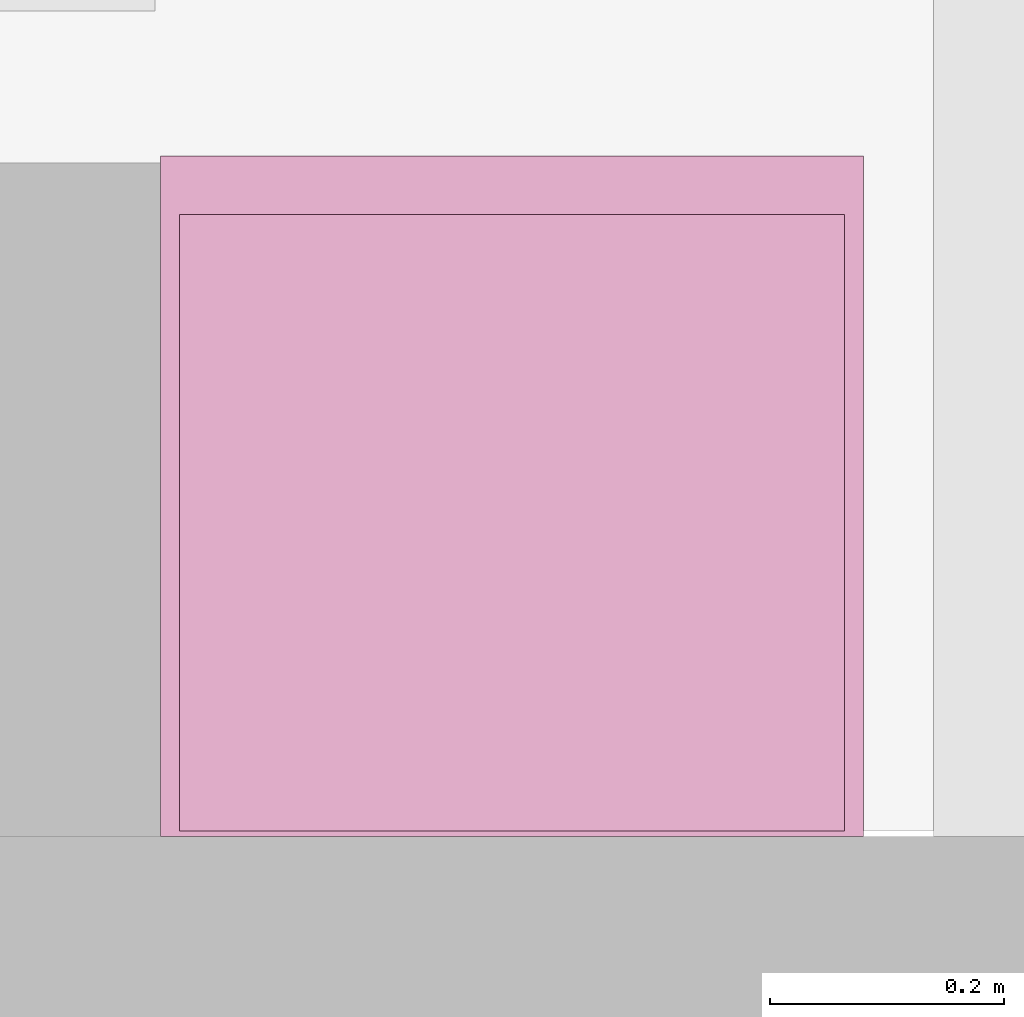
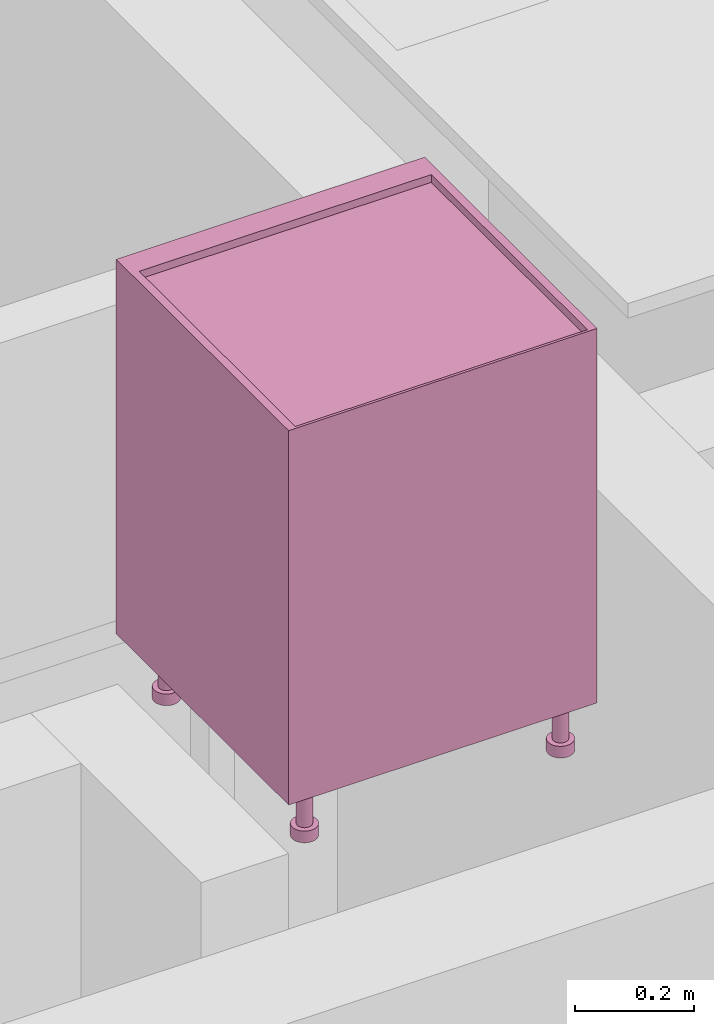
# One storey, part 22 of 68: 1 furnishing.
"""IFC2X3 building model written with IfcOpenShell, lengths in millimetres."""

from ifc_helpers import new_model, entity, si_unit, converted_unit, direction, frame, origin, place, context, subcontext, project, spatial, faceted_brep, source, transform, mapped, material, type_object, type_shapes, element, save


model = new_model("IFC2X3")

# Units and contexts
model_context = context("Model", 3, precision=0.01, world=origin(), true_north=direction((6.123233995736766e-17, 1.0)))
plan_context = context("Plan", 3, precision=0.01, world=origin(), true_north=direction((6.123233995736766e-17, 1.0)))
body_context = subcontext(model_context, "Body", "Model", "MODEL_VIEW")
ifc_project = project(units=[si_unit("LENGTHUNIT", "METRE", prefix="MILLI"), converted_unit("PLANEANGLEUNIT", "DEGREE", entity("IfcPlaneAngleMeasure", 0.017453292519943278), si_unit("PLANEANGLEUNIT", "RADIAN"), dimensions=[0, 0, 0, 0, 0, 0, 0]), si_unit("AREAUNIT", "SQUARE_METRE")], contexts=[model_context, plan_context])

# Site, building, storey, space
site_placement = place(None, origin())
site = spatial("IfcSite", under=ifc_project, at=site_placement, Name="Default", CompositionType="ELEMENT")
building_placement = place(site_placement, origin())
building = spatial("IfcBuilding", under=site, at=building_placement, CompositionType="ELEMENT")
storey_placement = place(building_placement, frame((0.0, 0.0, 6295.0)))
storey = spatial("IfcBuildingStorey", under=building, at=storey_placement, Name="3K", CompositionType="ELEMENT", Elevation=6294.999999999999)
space_placement = place(storey_placement, origin())
space = spatial("IfcSpace", under=storey, at=space_placement, Name="3-5.1", CompositionType="ELEMENT", InteriorOrExteriorSpace="INTERNAL")

# Furnishing
ifc_material = material(Name="<Unnamed>")
furniture_type = type_object("IfcFurnitureType", Name="HR_Casework_Kitchen_Generic_Appliance_v3:Dishwasher", AssemblyPlace="NOTDEFINED", material=ifc_material)
shared_shape = source(origin(), body_context, "Body", "Brep", [
    faceted_brep([(305.7003264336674, -585.7846096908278, -3101.0), (310.6708891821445, -581.9705627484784, -3101.0), (300.70032643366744, -577.1243556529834, -3101.0), (297.32379306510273, -578.5229615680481, -3101.0), (299.91198351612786, -588.1822198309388, -3101.0), (303.59982137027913, -574.8994949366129, -3101.0), (314.4849361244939, -577.0, -3101.0), (305.82468208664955, -572.0, -3101.0), (307.2232880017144, -568.6234666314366, -3101.0), (316.8825462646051, -571.2116570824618, -3101.0), (307.70032643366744, -565.0, -3101.0), (317.7003264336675, -565.0, -3101.0), (307.2232880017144, -561.3765333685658, -3101.0), (316.88254626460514, -558.7883429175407, -3101.0), (305.82468208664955, -558.0, -3101.0), (314.484936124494, -553.0, -3101.0), (303.59982137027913, -555.1005050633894, -3101.0), (310.67088918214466, -548.0294372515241, -3101.0), (300.70032643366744, -552.875644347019, -3101.0), (305.7003264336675, -544.2153903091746, -3101.0), (297.32379306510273, -551.4770384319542, -3101.0), (299.91198351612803, -541.8177801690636, -3101.0), (293.7003264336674, -551.0, -3101.0), (293.70032643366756, -541.0, -3101.0), (290.07685980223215, -551.4770384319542, -3101.0), (287.488669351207, -541.8177801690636, -3101.0), (286.70032643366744, -552.875644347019, -3101.0), (281.7003264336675, -544.2153903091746, -3101.0), (283.80083149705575, -555.1005050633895, -3101.0), (276.7297636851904, -548.029437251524, -3101.0), (281.5759707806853, -558.0, -3101.0), (272.91571674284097, -553.0, -3101.0), (270.51810660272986, -558.7883429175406, -3101.0), (280.1773648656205, -561.3765333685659, -3101.0), (269.7003264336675, -565.0, -3101.0), (279.7003264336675, -565.0, -3101.0), (270.51810660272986, -571.2116570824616, -3101.0), (280.1773648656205, -568.6234666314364, -3101.0), (272.9157167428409, -577.0, -3101.0), (281.57597078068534, -572.0, -3101.0), (276.7297636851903, -581.9705627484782, -3101.0), (283.80083149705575, -574.8994949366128, -3101.0), (281.70032643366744, -585.7846096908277, -3101.0), (286.70032643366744, -577.1243556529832, -3101.0), (287.4886693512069, -588.1822198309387, -3101.0), (290.07685980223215, -578.5229615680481, -3101.0), (293.7003264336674, -589.0, -3101.0), (293.70032643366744, -579.0, -3101.0), (299.91198351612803, -541.8177801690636, -3125.0), (305.7003264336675, -544.2153903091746, -3125.0), (310.67088918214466, -548.0294372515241, -3125.0), (314.484936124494, -553.0, -3125.0), (316.88254626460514, -558.7883429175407, -3125.0), (317.7003264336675, -565.0, -3125.0), (316.8825462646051, -571.2116570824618, -3125.0), (314.4849361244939, -577.0, -3125.0), (310.6708891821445, -581.9705627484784, -3125.0), (305.7003264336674, -585.7846096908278, -3125.0), (299.91198351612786, -588.1822198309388, -3125.0), (293.7003264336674, -589.0, -3125.0), (287.4886693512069, -588.1822198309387, -3125.0), (281.70032643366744, -585.7846096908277, -3125.0), (276.7297636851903, -581.9705627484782, -3125.0), (272.9157167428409, -577.0, -3125.0), (270.51810660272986, -571.2116570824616, -3125.0), (269.7003264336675, -565.0, -3125.0), (270.51810660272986, -558.7883429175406, -3125.0), (272.91571674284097, -553.0, -3125.0), (276.7297636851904, -548.029437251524, -3125.0), (281.7003264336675, -544.2153903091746, -3125.0), (287.488669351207, -541.8177801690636, -3125.0), (293.70032643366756, -541.0, -3125.0), (297.32379306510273, -578.5229615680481, -3025.0), (300.70032643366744, -577.1243556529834, -3025.0), (303.59982137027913, -574.8994949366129, -3025.0), (305.8246820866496, -572.0, -3025.0), (307.2232880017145, -568.6234666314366, -3025.0), (307.70032643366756, -565.0, -3025.0), (307.2232880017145, -561.3765333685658, -3025.0), (305.8246820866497, -558.0, -3025.0), (303.5998213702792, -555.1005050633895, -3025.0), (300.70032643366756, -552.875644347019, -3025.0), (297.32379306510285, -551.4770384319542, -3025.0), (293.70032643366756, -551.0, -3025.0), (290.07685980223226, -551.4770384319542, -3025.0), (286.70032643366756, -552.875644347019, -3025.0), (283.80083149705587, -555.1005050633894, -3025.0), (281.5759707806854, -558.0, -3025.0), (280.1773648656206, -561.3765333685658, -3025.0), (279.70032643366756, -565.0, -3025.0), (280.1773648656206, -568.6234666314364, -3025.0), (281.5759707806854, -572.0, -3025.0), (283.8008314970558, -574.8994949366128, -3025.0), (286.7003264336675, -577.1243556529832, -3025.0), (290.07685980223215, -578.5229615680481, -3025.0), (293.70032643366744, -579.0, -3025.0)], [[[0, 1, 2]], [[0, 2, 3]], [[3, 4, 0]], [[2, 1, 5]], [[6, 5, 1]], [[7, 5, 6]], [[8, 7, 6]], [[8, 6, 9]], [[8, 9, 10]], [[10, 9, 11]], [[12, 10, 11]], [[12, 11, 13]], [[14, 12, 13]], [[14, 13, 15]], [[16, 14, 15]], [[15, 17, 16]], [[17, 18, 16]], [[18, 17, 19]], [[18, 19, 20]], [[21, 20, 19]], [[20, 21, 22]], [[22, 21, 23]], [[23, 24, 22]], [[24, 23, 25]], [[24, 25, 26]], [[27, 26, 25]], [[27, 28, 26]], [[27, 29, 28]], [[30, 28, 29]], [[31, 30, 29]], [[32, 30, 31]], [[33, 30, 32]], [[33, 32, 34]], [[34, 35, 33]], [[36, 35, 34]], [[36, 37, 35]], [[37, 36, 38]], [[39, 37, 38]], [[39, 38, 40]], [[39, 40, 41]], [[40, 42, 41]], [[41, 42, 43]], [[43, 42, 44]], [[44, 45, 43]], [[46, 45, 44]], [[4, 47, 46]], [[45, 46, 47]], [[4, 3, 47]], [[48, 49, 50, 51, 52, 53, 54, 55, 56, 57, 58, 59, 60, 61, 62, 63, 64, 65, 66, 67, 68, 69, 70, 71]], [[64, 36, 34, 65]], [[63, 38, 36, 64]], [[42, 40, 62, 61]], [[63, 62, 40, 38]], [[44, 42, 61, 60]], [[46, 44, 60, 59]], [[58, 4, 46, 59]], [[57, 0, 4, 58]], [[54, 53, 11, 9]], [[1, 0, 57, 56]], [[6, 55, 54, 9]], [[6, 1, 56, 55]], [[52, 13, 11, 53]], [[51, 15, 13, 52]], [[19, 17, 50, 49]], [[51, 50, 17, 15]], [[21, 19, 49, 48]], [[23, 21, 48, 71]], [[27, 69, 68, 29]], [[31, 67, 66, 32]], [[68, 67, 31, 29]], [[32, 66, 65, 34]], [[25, 70, 69, 27]], [[70, 25, 23, 71]], [[72, 73, 74, 75, 76, 77, 78, 79, 80, 81, 82, 83, 84, 85, 86, 87, 88, 89, 90, 91, 92, 93, 94, 95]], [[37, 39, 91, 90]], [[35, 37, 90, 89]], [[43, 45, 94, 93]], [[41, 43, 93, 92]], [[39, 41, 92, 91]], [[47, 95, 94, 45]], [[2, 5, 74, 73]], [[3, 2, 73, 72]], [[8, 10, 77, 76]], [[7, 8, 76, 75]], [[5, 7, 75, 74]], [[3, 72, 95, 47]], [[79, 78, 12, 14]], [[78, 77, 10, 12]], [[80, 16, 18, 81]], [[16, 80, 79, 14]], [[81, 18, 20, 82]], [[22, 83, 82, 20]], [[26, 28, 86, 85]], [[24, 26, 85, 84]], [[33, 35, 89, 88]], [[30, 33, 88, 87]], [[28, 30, 87, 86]], [[24, 84, 83, 22]]]),
    faceted_brep([(-192.29967356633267, -585.7846096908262, -3101.0), (-187.3291108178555, -581.9705627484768, -3101.0), (-197.29967356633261, -577.1243556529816, -3101.0), (-200.67620693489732, -578.5229615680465, -3101.0), (-198.08801648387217, -588.1822198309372, -3101.0), (-194.40017862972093, -574.8994949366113, -3101.0), (-183.51506387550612, -577.0, -3101.0), (-192.17531791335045, -572.0, -3101.0), (-190.77671199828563, -568.6234666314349, -3101.0), (-181.11745373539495, -571.2116570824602, -3101.0), (-190.29967356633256, -565.0, -3101.0), (-180.29967356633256, -565.0, -3101.0), (-190.77671199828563, -561.3765333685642, -3101.0), (-181.11745373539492, -558.788342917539, -3101.0), (-192.17531791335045, -558.0, -3101.0), (-183.515063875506, -553.0, -3101.0), (-194.40017862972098, -555.1005050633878, -3101.0), (-187.3291108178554, -548.0294372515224, -3101.0), (-197.29967356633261, -552.8756443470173, -3101.0), (-192.29967356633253, -544.215390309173, -3101.0), (-200.67620693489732, -551.4770384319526, -3101.0), (-198.08801648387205, -541.8177801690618, -3101.0), (-204.29967356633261, -551.0, -3101.0), (-204.29967356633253, -541.0, -3101.0), (-207.92314019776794, -551.4770384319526, -3101.0), (-210.51133064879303, -541.8177801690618, -3101.0), (-211.29967356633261, -552.8756443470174, -3101.0), (-216.29967356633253, -544.215390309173, -3101.0), (-214.19916850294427, -555.1005050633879, -3101.0), (-221.27023631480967, -548.0294372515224, -3101.0), (-216.42402921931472, -558.0, -3101.0), (-225.08428325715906, -553.0, -3101.0), (-227.48189339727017, -558.788342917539, -3101.0), (-217.8226351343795, -561.3765333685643, -3101.0), (-228.2996735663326, -565.0, -3101.0), (-218.29967356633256, -565.0, -3101.0), (-227.48189339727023, -571.21165708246, -3101.0), (-217.8226351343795, -568.6234666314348, -3101.0), (-225.08428325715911, -577.0, -3101.0), (-216.42402921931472, -572.0, -3101.0), (-221.27023631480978, -581.9705627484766, -3101.0), (-214.19916850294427, -574.8994949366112, -3101.0), (-216.29967356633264, -585.784609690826, -3101.0), (-211.29967356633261, -577.1243556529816, -3101.0), (-210.51133064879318, -588.1822198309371, -3101.0), (-207.9231401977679, -578.5229615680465, -3101.0), (-204.2996735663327, -589.0, -3101.0), (-204.29967356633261, -579.0, -3101.0), (-198.08801648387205, -541.8177801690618, -3125.0), (-192.29967356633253, -544.215390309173, -3125.0), (-187.3291108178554, -548.0294372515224, -3125.0), (-183.515063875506, -553.0, -3125.0), (-181.11745373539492, -558.788342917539, -3125.0), (-180.29967356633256, -565.0, -3125.0), (-181.11745373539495, -571.2116570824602, -3125.0), (-183.51506387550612, -577.0, -3125.0), (-187.3291108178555, -581.9705627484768, -3125.0), (-192.29967356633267, -585.7846096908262, -3125.0), (-198.08801648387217, -588.1822198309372, -3125.0), (-204.2996735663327, -589.0, -3125.0), (-210.51133064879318, -588.1822198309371, -3125.0), (-216.29967356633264, -585.784609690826, -3125.0), (-221.27023631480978, -581.9705627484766, -3125.0), (-225.08428325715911, -577.0, -3125.0), (-227.48189339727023, -571.21165708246, -3125.0), (-228.2996735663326, -565.0, -3125.0), (-227.48189339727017, -558.788342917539, -3125.0), (-225.08428325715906, -553.0, -3125.0), (-221.27023631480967, -548.0294372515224, -3125.0), (-216.29967356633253, -544.215390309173, -3125.0), (-210.51133064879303, -541.8177801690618, -3125.0), (-204.29967356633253, -541.0, -3125.0), (-200.67620693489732, -578.5229615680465, -3025.0), (-197.29967356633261, -577.1243556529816, -3025.0), (-194.40017862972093, -574.8994949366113, -3025.0), (-192.17531791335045, -572.0, -3025.0), (-190.77671199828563, -568.6234666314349, -3025.0), (-190.29967356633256, -565.0, -3025.0), (-190.77671199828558, -561.3765333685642, -3025.0), (-192.1753179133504, -558.0, -3025.0), (-194.40017862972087, -555.1005050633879, -3025.0), (-197.29967356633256, -552.8756443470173, -3025.0), (-200.67620693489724, -551.4770384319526, -3025.0), (-204.29967356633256, -551.0, -3025.0), (-207.92314019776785, -551.4770384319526, -3025.0), (-211.29967356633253, -552.8756443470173, -3025.0), (-214.1991685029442, -555.1005050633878, -3025.0), (-216.4240292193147, -558.0, -3025.0), (-217.8226351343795, -561.3765333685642, -3025.0), (-218.29967356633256, -565.0, -3025.0), (-217.8226351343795, -568.6234666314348, -3025.0), (-216.42402921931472, -572.0, -3025.0), (-214.19916850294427, -574.8994949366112, -3025.0), (-211.2996735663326, -577.1243556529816, -3025.0), (-207.9231401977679, -578.5229615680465, -3025.0), (-204.29967356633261, -579.0, -3025.0)], [[[0, 1, 2]], [[0, 2, 3]], [[3, 4, 0]], [[2, 1, 5]], [[6, 5, 1]], [[7, 5, 6]], [[8, 7, 6]], [[8, 6, 9]], [[8, 9, 10]], [[10, 9, 11]], [[12, 10, 11]], [[12, 11, 13]], [[14, 12, 13]], [[14, 13, 15]], [[16, 14, 15]], [[15, 17, 16]], [[17, 18, 16]], [[18, 17, 19]], [[18, 19, 20]], [[21, 20, 19]], [[20, 21, 22]], [[22, 21, 23]], [[23, 24, 22]], [[24, 23, 25]], [[24, 25, 26]], [[27, 26, 25]], [[27, 28, 26]], [[27, 29, 28]], [[30, 28, 29]], [[31, 30, 29]], [[32, 30, 31]], [[33, 30, 32]], [[33, 32, 34]], [[34, 35, 33]], [[36, 35, 34]], [[36, 37, 35]], [[37, 36, 38]], [[39, 37, 38]], [[39, 38, 40]], [[39, 40, 41]], [[40, 42, 41]], [[41, 42, 43]], [[43, 42, 44]], [[44, 45, 43]], [[46, 45, 44]], [[4, 47, 46]], [[45, 46, 47]], [[4, 3, 47]], [[48, 49, 50, 51, 52, 53, 54, 55, 56, 57, 58, 59, 60, 61, 62, 63, 64, 65, 66, 67, 68, 69, 70, 71]], [[64, 36, 34, 65]], [[63, 38, 36, 64]], [[42, 40, 62, 61]], [[63, 62, 40, 38]], [[44, 42, 61, 60]], [[46, 44, 60, 59]], [[58, 4, 46, 59]], [[57, 0, 4, 58]], [[54, 53, 11, 9]], [[1, 0, 57, 56]], [[6, 55, 54, 9]], [[6, 1, 56, 55]], [[52, 13, 11, 53]], [[51, 15, 13, 52]], [[19, 17, 50, 49]], [[51, 50, 17, 15]], [[21, 19, 49, 48]], [[23, 21, 48, 71]], [[27, 69, 68, 29]], [[31, 67, 66, 32]], [[68, 67, 31, 29]], [[32, 66, 65, 34]], [[25, 70, 69, 27]], [[70, 25, 23, 71]], [[72, 73, 74, 75, 76, 77, 78, 79, 80, 81, 82, 83, 84, 85, 86, 87, 88, 89, 90, 91, 92, 93, 94, 95]], [[37, 39, 91, 90]], [[35, 37, 90, 89]], [[43, 45, 94, 93]], [[41, 43, 93, 92]], [[39, 41, 92, 91]], [[47, 95, 94, 45]], [[2, 5, 74, 73]], [[3, 2, 73, 72]], [[8, 10, 77, 76]], [[7, 8, 76, 75]], [[5, 7, 75, 74]], [[3, 72, 95, 47]], [[79, 78, 12, 14]], [[78, 77, 10, 12]], [[80, 16, 18, 81]], [[16, 80, 79, 14]], [[81, 18, 20, 82]], [[22, 83, 82, 20]], [[26, 28, 86, 85]], [[24, 26, 85, 84]], [[33, 35, 89, 88]], [[30, 33, 88, 87]], [[28, 30, 87, 86]], [[24, 84, 83, 22]]]),
    faceted_brep([(305.70032643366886, -120.78460969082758, -3101.0), (310.670889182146, -116.97056274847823, -3101.0), (300.7003264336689, -112.12435565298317, -3101.0), (297.3237930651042, -113.52296156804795, -3101.0), (299.91198351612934, -123.18221983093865, -3101.0), (303.5998213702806, -109.8994949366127, -3101.0), (314.48493612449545, -112.0, -3101.0), (305.824682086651, -107.0, -3101.0), (307.2232880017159, -103.62346663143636, -3101.0), (316.88254626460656, -106.21165708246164, -3101.0), (307.700326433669, -100.0, -3101.0), (317.700326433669, -100.0, -3101.0), (307.2232880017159, -96.3765333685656, -3101.0), (316.8825462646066, -93.78834291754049, -3101.0), (305.824682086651, -93.0, -3101.0), (314.4849361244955, -88.0, -3101.0), (303.5998213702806, -90.10050506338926, -3101.0), (310.67088918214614, -83.02943725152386, -3101.0), (300.7003264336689, -87.8756443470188, -3101.0), (305.700326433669, -79.21539030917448, -3101.0), (297.3237930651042, -86.477038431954, -3101.0), (299.9119835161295, -76.81778016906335, -3101.0), (293.70032643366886, -86.0, -3101.0), (293.70032643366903, -76.0, -3101.0), (290.0768598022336, -86.47703843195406, -3101.0), (287.4886693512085, -76.81778016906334, -3101.0), (286.7003264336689, -87.87564434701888, -3101.0), (281.700326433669, -79.21539030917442, -3101.0), (283.8008314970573, -90.10050506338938, -3101.0), (276.72976368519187, -83.0294372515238, -3101.0), (281.5759707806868, -93.0, -3101.0), (272.91571674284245, -88.0, -3101.0), (270.51810660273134, -93.78834291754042, -3101.0), (280.177364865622, -96.37653336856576, -3101.0), (269.700326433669, -100.0, -3101.0), (279.700326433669, -100.0, -3101.0), (270.51810660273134, -106.2116570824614, -3101.0), (280.177364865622, -103.62346663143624, -3101.0), (272.9157167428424, -112.0, -3101.0), (281.5759707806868, -107.0, -3101.0), (276.72976368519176, -116.97056274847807, -3101.0), (283.8008314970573, -109.89949493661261, -3101.0), (281.7003264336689, -120.78460969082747, -3101.0), (286.7003264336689, -112.1243556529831, -3101.0), (287.4886693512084, -123.1822198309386, -3101.0), (290.0768598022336, -113.52296156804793, -3101.0), (293.70032643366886, -124.0, -3101.0), (293.7003264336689, -114.0, -3101.0), (299.9119835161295, -76.81778016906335, -3125.0), (305.700326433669, -79.21539030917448, -3125.0), (310.67088918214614, -83.02943725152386, -3125.0), (314.4849361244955, -88.0, -3125.0), (316.8825462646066, -93.78834291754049, -3125.0), (317.700326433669, -100.0, -3125.0), (316.88254626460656, -106.21165708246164, -3125.0), (314.48493612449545, -112.0, -3125.0), (310.670889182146, -116.97056274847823, -3125.0), (305.70032643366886, -120.78460969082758, -3125.0), (299.91198351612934, -123.18221983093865, -3125.0), (293.70032643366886, -124.0, -3125.0), (287.4886693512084, -123.1822198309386, -3125.0), (281.7003264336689, -120.78460969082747, -3125.0), (276.72976368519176, -116.97056274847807, -3125.0), (272.9157167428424, -112.0, -3125.0), (270.51810660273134, -106.2116570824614, -3125.0), (269.700326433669, -100.0, -3125.0), (270.51810660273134, -93.78834291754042, -3125.0), (272.91571674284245, -88.0, -3125.0), (276.72976368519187, -83.0294372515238, -3125.0), (281.700326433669, -79.21539030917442, -3125.0), (287.4886693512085, -76.81778016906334, -3125.0), (293.70032643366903, -76.0, -3125.0), (297.32379306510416, -113.52296156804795, -3025.0), (300.70032643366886, -112.12435565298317, -3025.0), (303.59982137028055, -109.8994949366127, -3025.0), (305.824682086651, -107.0, -3025.0), (307.22328800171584, -103.62346663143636, -3025.0), (307.700326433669, -100.0, -3025.0), (307.2232880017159, -96.3765333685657, -3025.0), (305.82468208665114, -93.0, -3025.0), (303.5998213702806, -90.10050506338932, -3025.0), (300.700326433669, -87.87564434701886, -3025.0), (297.32379306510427, -86.47703843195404, -3025.0), (293.700326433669, -86.0, -3025.0), (290.0768598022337, -86.47703843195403, -3025.0), (286.700326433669, -87.87564434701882, -3025.0), (283.8008314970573, -90.1005050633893, -3025.0), (281.5759707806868, -93.0, -3025.0), (280.177364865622, -96.37653336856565, -3025.0), (279.700326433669, -100.0, -3025.0), (280.177364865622, -103.62346663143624, -3025.0), (281.5759707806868, -107.0, -3025.0), (283.80083149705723, -109.89949493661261, -3025.0), (286.7003264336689, -112.1243556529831, -3025.0), (290.07685980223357, -113.52296156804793, -3025.0), (293.70032643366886, -114.0, -3025.0)], [[[0, 1, 2]], [[0, 2, 3]], [[3, 4, 0]], [[2, 1, 5]], [[6, 5, 1]], [[7, 5, 6]], [[8, 7, 6]], [[8, 6, 9]], [[8, 9, 10]], [[10, 9, 11]], [[12, 10, 11]], [[12, 11, 13]], [[14, 12, 13]], [[14, 13, 15]], [[16, 14, 15]], [[15, 17, 16]], [[17, 18, 16]], [[18, 17, 19]], [[18, 19, 20]], [[21, 20, 19]], [[20, 21, 22]], [[22, 21, 23]], [[23, 24, 22]], [[24, 23, 25]], [[24, 25, 26]], [[27, 26, 25]], [[27, 28, 26]], [[27, 29, 28]], [[30, 28, 29]], [[31, 30, 29]], [[32, 30, 31]], [[33, 30, 32]], [[33, 32, 34]], [[34, 35, 33]], [[36, 35, 34]], [[36, 37, 35]], [[37, 36, 38]], [[39, 37, 38]], [[39, 38, 40]], [[39, 40, 41]], [[40, 42, 41]], [[41, 42, 43]], [[43, 42, 44]], [[44, 45, 43]], [[46, 45, 44]], [[4, 47, 46]], [[45, 46, 47]], [[4, 3, 47]], [[48, 49, 50, 51, 52, 53, 54, 55, 56, 57, 58, 59, 60, 61, 62, 63, 64, 65, 66, 67, 68, 69, 70, 71]], [[64, 36, 34, 65]], [[63, 38, 36, 64]], [[42, 40, 62, 61]], [[63, 62, 40, 38]], [[44, 42, 61, 60]], [[46, 44, 60, 59]], [[58, 4, 46, 59]], [[57, 0, 4, 58]], [[54, 53, 11, 9]], [[1, 0, 57, 56]], [[6, 55, 54, 9]], [[6, 1, 56, 55]], [[52, 13, 11, 53]], [[51, 15, 13, 52]], [[19, 17, 50, 49]], [[51, 50, 17, 15]], [[21, 19, 49, 48]], [[23, 21, 48, 71]], [[27, 69, 68, 29]], [[31, 67, 66, 32]], [[68, 67, 31, 29]], [[32, 66, 65, 34]], [[25, 70, 69, 27]], [[70, 25, 23, 71]], [[72, 73, 74, 75, 76, 77, 78, 79, 80, 81, 82, 83, 84, 85, 86, 87, 88, 89, 90, 91, 92, 93, 94, 95]], [[37, 39, 91, 90]], [[35, 37, 90, 89]], [[43, 45, 94, 93]], [[41, 43, 93, 92]], [[39, 41, 92, 91]], [[47, 95, 94, 45]], [[2, 5, 74, 73]], [[3, 2, 73, 72]], [[8, 10, 77, 76]], [[7, 8, 76, 75]], [[5, 7, 75, 74]], [[3, 72, 95, 47]], [[79, 78, 12, 14]], [[78, 77, 10, 12]], [[80, 16, 18, 81]], [[16, 80, 79, 14]], [[81, 18, 20, 82]], [[22, 83, 82, 20]], [[26, 28, 86, 85]], [[24, 26, 85, 84]], [[33, 35, 89, 88]], [[30, 33, 88, 87]], [[28, 30, 87, 86]], [[24, 84, 83, 22]]]),
    faceted_brep([(-192.299673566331, -120.78460969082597, -3101.0), (-187.3291108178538, -116.97056274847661, -3101.0), (-197.29967356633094, -112.12435565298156, -3101.0), (-200.67620693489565, -113.52296156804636, -3101.0), (-198.0880164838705, -123.18221983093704, -3101.0), (-194.40017862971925, -109.89949493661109, -3101.0), (-183.5150638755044, -112.0, -3101.0), (-192.17531791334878, -107.0, -3101.0), (-190.77671199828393, -103.62346663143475, -3101.0), (-181.11745373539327, -106.21165708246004, -3101.0), (-190.29967356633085, -100.0, -3101.0), (-180.29967356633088, -100.0, -3101.0), (-190.77671199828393, -96.376533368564, -3101.0), (-181.11745373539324, -93.78834291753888, -3101.0), (-192.17531791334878, -93.0, -3101.0), (-183.51506387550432, -88.0, -3101.0), (-194.40017862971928, -90.10050506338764, -3101.0), (-187.32911081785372, -83.02943725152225, -3101.0), (-197.29967356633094, -87.8756443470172, -3101.0), (-192.29967356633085, -79.21539030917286, -3101.0), (-200.67620693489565, -86.4770384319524, -3101.0), (-198.08801648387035, -76.81778016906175, -3101.0), (-204.29967356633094, -86.0, -3101.0), (-204.29967356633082, -76.0, -3101.0), (-207.92314019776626, -86.47703843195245, -3101.0), (-210.51133064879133, -76.81778016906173, -3101.0), (-211.29967356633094, -87.87564434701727, -3101.0), (-216.29967356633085, -79.21539030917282, -3101.0), (-214.19916850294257, -90.10050506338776, -3101.0), (-221.270236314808, -83.0294372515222, -3101.0), (-216.424029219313, -93.0, -3101.0), (-225.08428325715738, -88.0, -3101.0), (-227.4818933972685, -93.78834291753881, -3101.0), (-217.82263513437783, -96.37653336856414, -3101.0), (-228.29967356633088, -100.0, -3101.0), (-218.29967356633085, -100.0, -3101.0), (-227.48189339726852, -106.2116570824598, -3101.0), (-217.82263513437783, -103.62346663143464, -3101.0), (-225.08428325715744, -112.0, -3101.0), (-216.424029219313, -107.0, -3101.0), (-221.27023631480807, -116.97056274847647, -3101.0), (-214.19916850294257, -109.899494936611, -3101.0), (-216.29967356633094, -120.78460969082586, -3101.0), (-211.29967356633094, -112.12435565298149, -3101.0), (-210.51133064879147, -123.18221983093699, -3101.0), (-207.9231401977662, -113.52296156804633, -3101.0), (-204.299673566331, -124.0, -3101.0), (-204.29967356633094, -114.0, -3101.0), (-198.08801648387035, -76.81778016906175, -3125.0), (-192.29967356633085, -79.21539030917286, -3125.0), (-187.32911081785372, -83.02943725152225, -3125.0), (-183.51506387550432, -88.0, -3125.0), (-181.11745373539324, -93.78834291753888, -3125.0), (-180.29967356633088, -100.0, -3125.0), (-181.11745373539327, -106.21165708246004, -3125.0), (-183.5150638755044, -112.0, -3125.0), (-187.3291108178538, -116.97056274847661, -3125.0), (-192.299673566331, -120.78460969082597, -3125.0), (-198.0880164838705, -123.18221983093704, -3125.0), (-204.299673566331, -124.0, -3125.0), (-210.51133064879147, -123.18221983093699, -3125.0), (-216.29967356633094, -120.78460969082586, -3125.0), (-221.27023631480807, -116.97056274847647, -3125.0), (-225.08428325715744, -112.0, -3125.0), (-227.48189339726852, -106.2116570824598, -3125.0), (-228.29967356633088, -100.0, -3125.0), (-227.4818933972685, -93.78834291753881, -3125.0), (-225.08428325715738, -88.0, -3125.0), (-221.270236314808, -83.0294372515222, -3125.0), (-216.29967356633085, -79.21539030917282, -3125.0), (-210.51133064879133, -76.81778016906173, -3125.0), (-204.29967356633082, -76.0, -3125.0), (-200.67620693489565, -113.52296156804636, -3025.0), (-197.29967356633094, -112.12435565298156, -3025.0), (-194.40017862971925, -109.89949493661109, -3025.0), (-192.17531791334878, -107.0, -3025.0), (-190.77671199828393, -103.62346663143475, -3025.0), (-190.29967356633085, -100.0, -3025.0), (-190.7767119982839, -96.3765333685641, -3025.0), (-192.1753179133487, -93.0, -3025.0), (-194.4001786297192, -90.10050506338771, -3025.0), (-197.29967356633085, -87.87564434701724, -3025.0), (-200.67620693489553, -86.47703843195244, -3025.0), (-204.29967356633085, -86.0, -3025.0), (-207.92314019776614, -86.47703843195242, -3025.0), (-211.29967356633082, -87.87564434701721, -3025.0), (-214.1991685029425, -90.10050506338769, -3025.0), (-216.42402921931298, -93.0, -3025.0), (-217.82263513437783, -96.37653336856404, -3025.0), (-218.29967356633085, -100.0, -3025.0), (-217.82263513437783, -103.62346663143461, -3025.0), (-216.424029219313, -107.0, -3025.0), (-214.19916850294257, -109.899494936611, -3025.0), (-211.29967356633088, -112.12435565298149, -3025.0), (-207.9231401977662, -113.52296156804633, -3025.0), (-204.29967356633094, -114.0, -3025.0)], [[[0, 1, 2]], [[0, 2, 3]], [[3, 4, 0]], [[2, 1, 5]], [[6, 5, 1]], [[7, 5, 6]], [[8, 7, 6]], [[8, 6, 9]], [[8, 9, 10]], [[10, 9, 11]], [[12, 10, 11]], [[12, 11, 13]], [[14, 12, 13]], [[14, 13, 15]], [[16, 14, 15]], [[15, 17, 16]], [[17, 18, 16]], [[18, 17, 19]], [[18, 19, 20]], [[21, 20, 19]], [[20, 21, 22]], [[22, 21, 23]], [[23, 24, 22]], [[24, 23, 25]], [[24, 25, 26]], [[27, 26, 25]], [[27, 28, 26]], [[27, 29, 28]], [[30, 28, 29]], [[31, 30, 29]], [[32, 30, 31]], [[33, 30, 32]], [[33, 32, 34]], [[34, 35, 33]], [[36, 35, 34]], [[36, 37, 35]], [[37, 36, 38]], [[39, 37, 38]], [[39, 38, 40]], [[39, 40, 41]], [[40, 42, 41]], [[41, 42, 43]], [[43, 42, 44]], [[44, 45, 43]], [[46, 45, 44]], [[4, 47, 46]], [[45, 46, 47]], [[4, 3, 47]], [[48, 49, 50, 51, 52, 53, 54, 55, 56, 57, 58, 59, 60, 61, 62, 63, 64, 65, 66, 67, 68, 69, 70, 71]], [[64, 36, 34, 65]], [[63, 38, 36, 64]], [[42, 40, 62, 61]], [[63, 62, 40, 38]], [[44, 42, 61, 60]], [[46, 44, 60, 59]], [[58, 4, 46, 59]], [[57, 0, 4, 58]], [[54, 53, 11, 9]], [[1, 0, 57, 56]], [[6, 55, 54, 9]], [[6, 1, 56, 55]], [[52, 13, 11, 53]], [[51, 15, 13, 52]], [[19, 17, 50, 49]], [[51, 50, 17, 15]], [[21, 19, 49, 48]], [[23, 21, 48, 71]], [[27, 69, 68, 29]], [[31, 67, 66, 32]], [[68, 67, 31, 29]], [[32, 66, 65, 34]], [[25, 70, 69, 27]], [[70, 25, 23, 71]], [[72, 73, 74, 75, 76, 77, 78, 79, 80, 81, 82, 83, 84, 85, 86, 87, 88, 89, 90, 91, 92, 93, 94, 95]], [[37, 39, 91, 90]], [[35, 37, 90, 89]], [[43, 45, 94, 93]], [[41, 43, 93, 92]], [[39, 41, 92, 91]], [[47, 95, 94, 45]], [[2, 5, 74, 73]], [[3, 2, 73, 72]], [[8, 10, 77, 76]], [[7, 8, 76, 75]], [[5, 7, 75, 74]], [[3, 72, 95, 47]], [[79, 78, 12, 14]], [[78, 77, 10, 12]], [[80, 16, 18, 81]], [[16, 80, 79, 14]], [[81, 18, 20, 82]], [[22, 83, 82, 20]], [[26, 28, 86, 85]], [[24, 26, 85, 84]], [[33, 35, 89, 88]], [[30, 33, 88, 87]], [[28, 30, 87, 86]], [[24, 84, 83, 22]]]),
    faceted_brep([(328.70032643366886, -19.0, -3009.0), (-239.2996735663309, -19.0, -3009.0), (-239.29967356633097, -595.0, -3009.0), (328.70032643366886, -595.0, -3009.0), (328.70032643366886, -19.0, -3025.0), (328.70032643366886, -595.0, -3025.0), (-239.29967356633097, -595.0, -3025.0), (-239.29967356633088, -19.0, -3025.0)], [[[0, 1, 2, 3]], [[4, 5, 6, 7]], [[1, 0, 4, 7]], [[2, 1, 7, 6]], [[3, 2, 6, 5]], [[0, 3, 5, 4]]]),
    faceted_brep([(-255.29967356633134, -19.0, -2255.0), (-255.2996735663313, -600.0, -2255.0), (344.7003264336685, -600.0, -2255.0), (344.7003264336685, -19.0, -2255.0), (328.70032643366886, -19.0, -2255.0), (328.70032643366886, -595.0, -2255.0), (-239.2996735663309, -595.0, -2255.0), (-239.2996735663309, -19.0, -2255.0), (-255.29967356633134, -19.0, -3025.0), (-239.2996735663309, -19.0, -3025.0), (-239.29967356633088, -595.0, -3025.0), (328.70032643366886, -595.0, -3025.0), (328.70032643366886, -19.0, -3025.0), (344.7003264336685, -19.0, -3025.0), (344.7003264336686, -600.0, -3025.0), (-255.2996735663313, -600.0, -3025.0)], [[[0, 1, 2, 3, 4, 5, 6, 7]], [[8, 9, 10, 11, 12, 13, 14, 15]], [[1, 0, 8, 15]], [[0, 7, 9, 8]], [[7, 6, 10, 9]], [[5, 4, 12, 11]], [[4, 3, 13, 12]], [[3, 2, 14, 13]], [[2, 1, 15, 14]], [[6, 5, 11, 10]]]),
    faceted_brep([(328.70032643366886, -69.0, -2255.0), (328.70032643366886, -19.0, -2255.0), (-239.29967356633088, -19.0, -2255.0), (-239.29967356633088, -69.0, -2255.0), (328.70032643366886, -69.0, -2271.0), (-239.29967356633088, -69.0, -2271.0), (-239.29967356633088, -19.0, -2271.0), (328.70032643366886, -19.0, -2271.0)], [[[0, 1, 2, 3]], [[4, 5, 6, 7]], [[0, 3, 5, 4]], [[3, 2, 6, 5]], [[2, 1, 7, 6]], [[1, 0, 4, 7]]]),
    faceted_brep([(328.7003264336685, -19.0, -2271.0), (-239.29967356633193, -19.0, -2271.0), (-239.2996735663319, -595.0, -2271.0), (328.7003264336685, -595.0, -2271.0), (328.7003264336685, -19.0, -3009.0), (328.7003264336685, -595.0, -3009.0), (-239.2996735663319, -595.0, -3009.0), (-239.2996735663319, -19.0, -3009.0)], [[[0, 1, 2, 3]], [[4, 5, 6, 7]], [[1, 0, 4, 7]], [[2, 1, 7, 6]], [[3, 2, 6, 5]], [[0, 3, 5, 4]]]),
])
type_shapes(furniture_type, [shared_shape])
furnishing_placement = place(space_placement, frame((2115.2996735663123, 7244.999959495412, 6295.000076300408)))
element("IfcFurnishingElement", 1, at=furnishing_placement, inside=space, type_object=furniture_type, material=ifc_material, Name="HR_Casework_Kitchen_Generic_Appliance_v3:Dishwasher", ObjectType="HR_Casework_Kitchen_Generic_Appliance_v3:Dishwasher", context=body_context, shape_type="MappedRepresentation", body=[
    mapped(shared_shape, transform((0.0, 0.0, 0.0), scale=1.0)),
])

save(model, "model.ifc")
